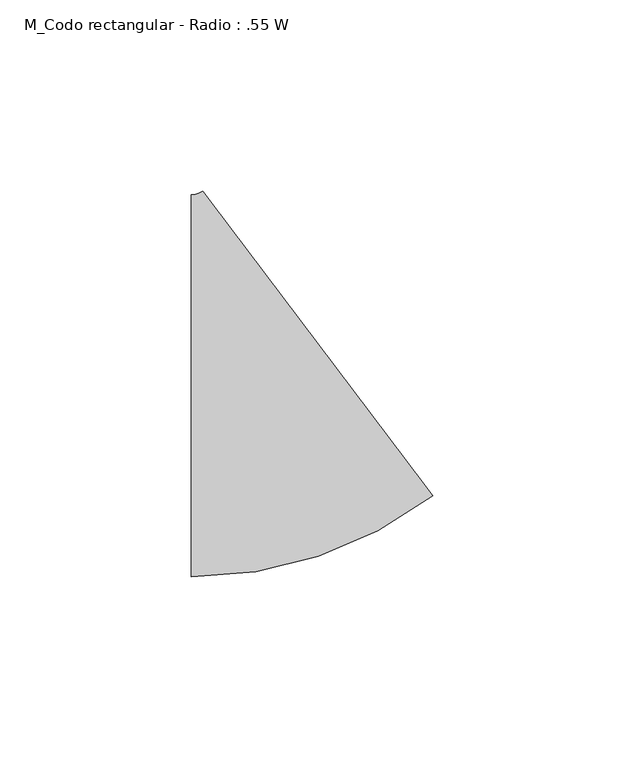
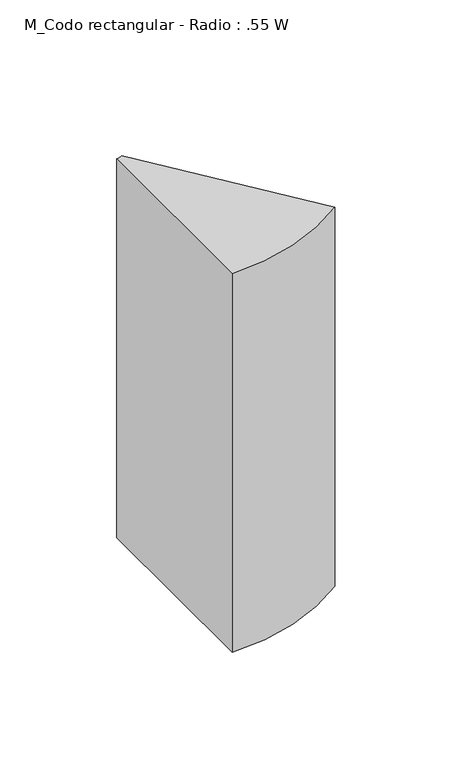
"""IFC4 building model written with IfcOpenShell, lengths in millimetres: duct fitting geometry, M_Codo rectangular - Radio : .55 W."""

from ifc_helpers import new_model, si_unit, point, frame, frame_2d, origin, place, context, project, spatial, polyline, circle_curve, trimmed, segment, composite_curve, outline, extrude, source, transform, mapped, element, save


def m_codo_rectangular_radio_55_w_86458d71(model_context):
    return source(origin(), model_context, "Body", "SweptSolid", [
        extrude(outline(composite_curve([segment(trimmed(circle_curve(frame_2d((-18.4254142, 55.0)), 105.0), [point((44.827311, -28.8098608))], [point((-18.4254142, -50.0))], False, "CARTESIAN"), True, "CONTINUOUS"), segment(polyline([(-18.4254142, -50.0), (-18.4254142, 50.0)]), True, "CONTINUOUS"), segment(trimmed(circle_curve(frame_2d((-18.4254142, 55.0)), 5.0), [point((-18.4254142, 50.0))], [point((-15.4133796, 51.0090542))], True, "CARTESIAN"), True, "CONTINUOUS"), segment(polyline([(-15.4133796, 51.0090542), (44.827311, -28.8098608)]), True, "CONTINUOUS")], self_intersect=False)), frame((0.0, 0.0, -100.0), z_axis=(0.0, 0.0, 1.0), x_axis=(1.0, 0.0, 0.0)), (0.0, 0.0, 1.0), 200.0),
    ])


if __name__ == "__main__":
    model = new_model("IFC4")
    model_context = context("Model", 3, world=origin())
    ifc_project = project(units=[si_unit("LENGTHUNIT", "METRE", prefix="MILLI")], contexts=[model_context])
    site = spatial("IfcSite", under=ifc_project)
    building = spatial("IfcBuilding", under=site)
    placement = place(None, origin())
    m_codo_rectangular_radio_55_w_shape = m_codo_rectangular_radio_55_w_86458d71(model_context)
    element("IfcDuctFitting", 1, ObjectType="M_Codo rectangular - Radio : .55 W", at=placement, inside=building, context=model_context, shape_type="MappedRepresentation", body=[
        mapped(m_codo_rectangular_radio_55_w_shape, transform((0.0, 0.0, 0.0), x_axis=(1.0, 0.0, 0.0), y_axis=(0.0, 1.0, 0.0), z_axis=(0.0, 0.0, 1.0))),
    ])
    save(model, "model.ifc")
